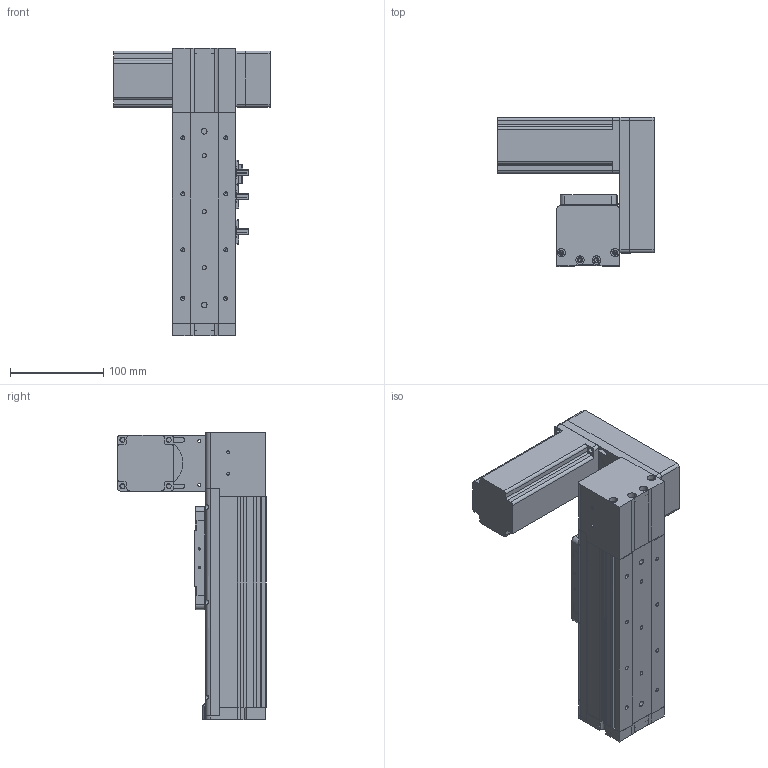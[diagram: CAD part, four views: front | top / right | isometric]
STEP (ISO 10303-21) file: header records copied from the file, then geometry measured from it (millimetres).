
FILE_DESCRIPTION (( 'STEP AP214' ), '1' );
FILE_NAME ('KSD68BS-S50-MLU-CR.STEP', '2019-08-27T07:48:35', ( '微软用户' ), ( '微软中国' ), 'SwSTEP 2.0', 'SolidWorks 2014', '' );
FILE_SCHEMA (( 'AUTOMOTIVE_DESIGN' ));
Length unit declared in the file: millimetre
Products named in the file (14): KSD68BS 50行程底板全封闭; KSD68BS-S50-MLU-CR; KSD68BS 50行程盖板全封闭; 68宽单导轨全封闭丝杆传动安装板1防护罩; 68遵裔啣揤啣1; KSD68BS 50行程侧板全封闭; 68宽单导轨全封闭同步带端板; 68单导轨全封闭同步带电机座左; 68单导轨全封闭同步带安装板; 悵誘欶奻狟殏; 68宽马达安装板连板上折同步带; 感应片68宽全封闭; U倰嫖萇EEㄜSX672; 台达ECMA－C20604AS伺服电机（400W)
Assembly tree (16 placements, depth 2):
  KSD68BS-S50-MLU-CR
    KSD68BS 50行程底板全封闭
    台达ECMA－C20604AS伺服电机（400W)
    U倰嫖萇EEㄜSX672  x3
    感应片68宽全封闭
    68宽马达安装板连板上折同步带
    悵誘欶奻狟殏
    68单导轨全封闭同步带安装板
    68单导轨全封闭同步带电机座左
    68宽单导轨全封闭同步带端板
    KSD68BS 50行程侧板全封闭  x2
    68宽单导轨全封闭丝杆传动安装板1防护罩
    KSD68BS 50行程盖板全封闭
    68遵裔啣揤啣1
Bounding box: 167.2 x 159.5 x 308.1 mm (x, y, z)
Volume: 1254452.2 mm3; surface area: 366524.9 mm2
Topology: 17 solids, 17 shells, 1332 faces, 3740 edges, 2410 vertices
Faces by surface type: plane 614, cylinder 594, cone 124
Entity records: 41327 total; most frequent: CARTESIAN_POINT 6948, DIRECTION 6264, ORIENTED_EDGE 6010, EDGE_CURVE 3005, AXIS2_PLACEMENT_3D 2218, VERTEX_POINT 1972, VECTOR 1828, LINE 1828
